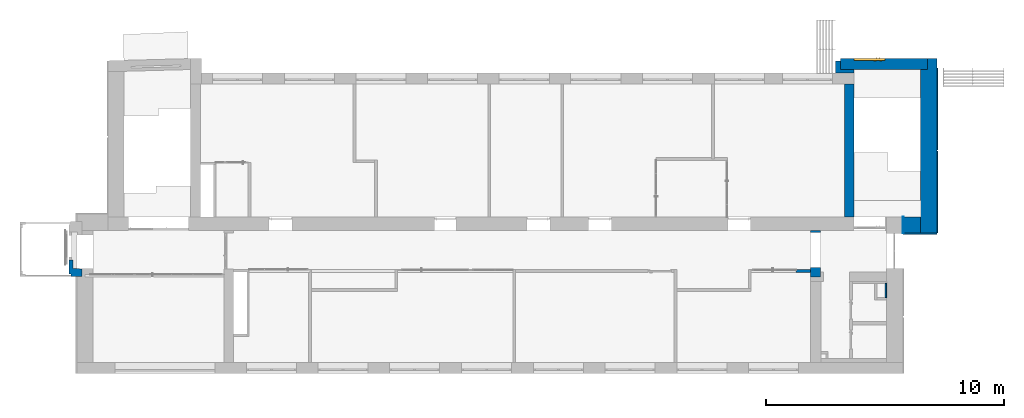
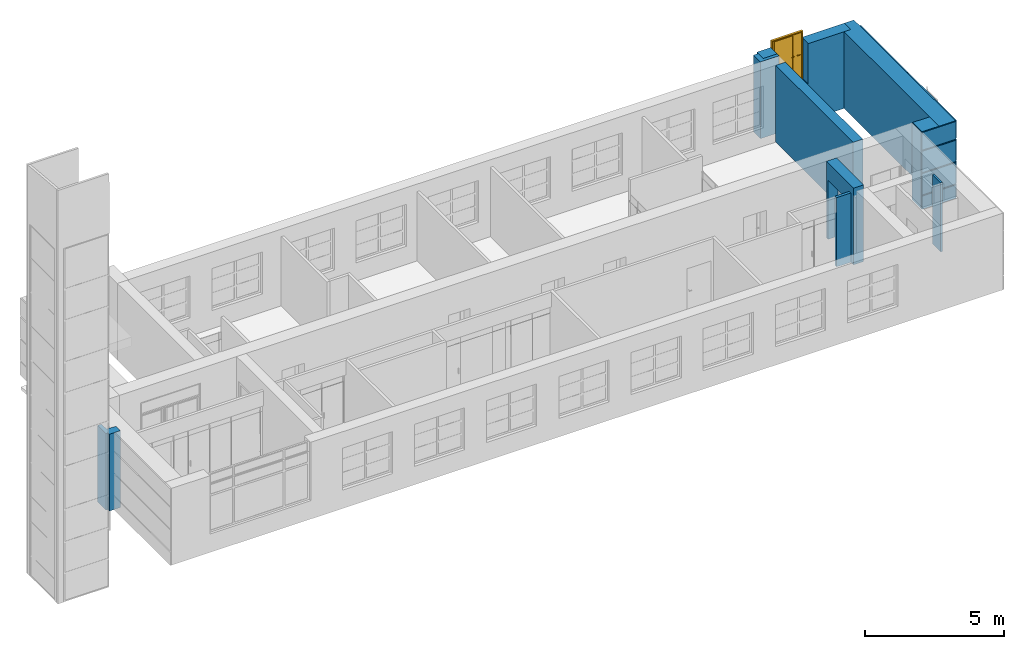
"""IFC2X3 building model written with IfcOpenShell, lengths in millimetres."""

from ifc_helpers import new_model, entity, si_unit, converted_unit, derived_unit, direction, frame, frame_2d, origin, origin_2d_with_axis, place, context, subcontext, project, spatial, polyline, rectangle, extrude, clip, bounded_halfspace, face_set, faceted_brep, surface_model, source, transform, mapped, material, material_list, layer, layer_set, layer_usage, type_object, type_shapes, element, fill, save


model = new_model("IFC2X3")

# Units and contexts
model_context = context("Model", 3, precision=0.01, world=origin(), true_north=direction((6.12303176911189e-17, 1.0)))
body_context = subcontext(model_context, "Body", "Model", "MODEL_VIEW")
ifc_project = project(units=[si_unit("LENGTHUNIT", "METRE", prefix="MILLI"), si_unit("AREAUNIT", "SQUARE_METRE"), si_unit("VOLUMEUNIT", "CUBIC_METRE"), converted_unit("PLANEANGLEUNIT", "DEGREE", entity("IfcRatioMeasure", 0.0174532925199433), si_unit("PLANEANGLEUNIT", "RADIAN"), dimensions=[0, 0, 0, 0, 0, 0, 0]), si_unit("MASSUNIT", "GRAM", prefix="KILO"), derived_unit("MASSDENSITYUNIT", [(si_unit("MASSUNIT", "GRAM", prefix="KILO"), 1), (si_unit("LENGTHUNIT", "METRE"), -3)]), si_unit("TIMEUNIT", "SECOND"), si_unit("FREQUENCYUNIT", "HERTZ"), si_unit("THERMODYNAMICTEMPERATUREUNIT", "DEGREE_CELSIUS"), derived_unit("THERMALTRANSMITTANCEUNIT", [(si_unit("MASSUNIT", "GRAM", prefix="KILO"), 1), (si_unit("THERMODYNAMICTEMPERATUREUNIT", "KELVIN"), -1), (si_unit("TIMEUNIT", "SECOND"), -3)]), derived_unit("VOLUMETRICFLOWRATEUNIT", [(si_unit("LENGTHUNIT", "METRE"), 3), (si_unit("TIMEUNIT", "SECOND"), -1)]), si_unit("ELECTRICCURRENTUNIT", "AMPERE"), si_unit("ELECTRICVOLTAGEUNIT", "VOLT"), si_unit("POWERUNIT", "WATT"), si_unit("FORCEUNIT", "NEWTON", prefix="KILO"), si_unit("ILLUMINANCEUNIT", "LUX"), si_unit("LUMINOUSFLUXUNIT", "LUMEN"), si_unit("LUMINOUSINTENSITYUNIT", "CANDELA"), derived_unit("USERDEFINED", [(si_unit("MASSUNIT", "GRAM", prefix="KILO"), -1), (si_unit("LENGTHUNIT", "METRE"), -2), (si_unit("TIMEUNIT", "SECOND"), 3), (si_unit("LUMINOUSFLUXUNIT", "LUMEN"), 1)]), derived_unit("LINEARVELOCITYUNIT", [(si_unit("LENGTHUNIT", "METRE"), 1), (si_unit("TIMEUNIT", "SECOND"), -1)]), si_unit("PRESSUREUNIT", "PASCAL"), derived_unit("USERDEFINED", [(si_unit("LENGTHUNIT", "METRE"), -2), (si_unit("MASSUNIT", "GRAM", prefix="KILO"), 1), (si_unit("TIMEUNIT", "SECOND"), -2)])], contexts=[model_context])

# Site, building, storey
site_placement = place(None, frame((-151.875543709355, 2715.0, 0.0)))
site = spatial("IfcSite", under=ifc_project, at=site_placement, Name="Surface", CompositionType="ELEMENT")
building_placement = place(site_placement, origin())
building = spatial("IfcBuilding", under=site, at=building_placement, CompositionType="ELEMENT")
storey_1_placement = place(building_placement, frame((0.0, 0.0, 3350.0)))
storey_1 = spatial("IfcBuildingStorey", under=building, at=storey_1_placement, Name="2 korrus", CompositionType="ELEMENT", Elevation=3350.00000000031)

# Wall
ifc_material_1 = material(Name="Paint - Sand Beige")
wall_type_1 = type_object("IfcWallType", Name="SEIN - 006", PredefinedType="NOTDEFINED", material=ifc_material_1)
wall_1_placement = place(storey_1_placement, frame((-541.883383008, 4071.05734432, 0.0), z_axis=(0.0, 0.0, 1.0), x_axis=(0.0, 1.0, 0.0)))
element("IfcWall", 1, at=wall_1_placement, inside=storey_1, type_object=wall_type_1, material=ifc_material_1, Name="SEIN - 006 48900:SEIN - 006 48900", ObjectType="SEIN - 006 48900:SEIN - 006 48900", context=body_context, shape_type="SurfaceModel", body=[
    surface_model("IfcFaceBasedSurfaceModel", [(99.9999990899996, -82.139787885, 3380.43203354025), (99.9999990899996, 0.0, 3380.43203354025), (100.00182932, 0.0, 0.0), (100.00182932, -82.139787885, 0.0), (99.9999990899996, -82.139787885, 3380.43203354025), (0.0, -82.139787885, 3380.43203354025), (0.0, -541.75892850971, 3380.43203354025), (318.92299153, -541.75892850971, 3380.43203354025), (341.8398406, -162.013561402, 3380.43203354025), (700.32644567, -162.013561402, 3380.43203354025), (700.32644567, 0.0, 3380.43203354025), (99.9999990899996, 0.0, 3380.43203354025), (99.9999990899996, 0.0, 3380.43203354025), (700.32644567, 0.0, 3380.43203354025), (700.32828135, 0.0, 0.0), (100.00182932, 0.0, 0.0), (0.00182932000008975, -82.139787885, 0.0), (0.00182932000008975, -541.758928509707, 0.0), (318.92299153, -541.758928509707, 0.0), (341.84167301, -162.013561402, 0.0), (700.32828135, -162.013561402, 0.0), (700.32828135, 0.0, 0.0), (100.00182932, 0.0, 0.0), (100.00182932, -82.139787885, 0.0), (0.0, -82.139787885, 3380.43203354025), (99.9999990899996, -82.139787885, 3380.43203354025), (100.00182932, -82.139787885, 0.0), (0.00182932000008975, -82.139787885, 0.0), (0.00182932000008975, -82.139787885, 0.0), (0.00182932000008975, -541.758928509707, 0.0), (0.0, -541.75892850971, 3380.43203354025), (0.0, -82.139787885, 3380.43203354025), (0.0, -541.75892850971, 3380.43203354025), (0.00182932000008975, -541.758928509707, 0.0), (318.92299153, -541.758928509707, 0.0), (318.92299153, -541.75892850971, 3380.43203354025), (341.841216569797, -162.013533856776, 0.0), (341.839384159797, -162.013533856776, 3380.43203354), (318.922535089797, -541.758900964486, 3380.43203354), (318.924360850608, -541.759011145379, 0.0), (341.8398406, -162.013561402, 3380.43203354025), (341.84167301, -162.013561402, 0.0), (700.32828135, -162.013561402, 0.0), (700.32644567, -162.013561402, 3380.43203354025), (700.326445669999, 0.0, 3380.43203354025), (700.326445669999, -162.013561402, 3380.43203354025), (700.328281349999, -162.013561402, 0.0), (700.328281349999, 0.0, 0.0)], [face_set([[[0, 1, 2, 3]]]), face_set([[[4, 5, 6, 7, 8, 9, 10, 11]]]), face_set([[[12, 13, 14, 15]]]), face_set([[[16, 17, 18, 19, 20, 21, 22, 23]]]), face_set([[[24, 25, 26, 27]]]), face_set([[[28, 29, 30, 31]]]), face_set([[[32, 33, 34, 35]]]), face_set([[[36, 37, 38, 39]]]), face_set([[[40, 41, 42, 43]]]), face_set([[[44, 45, 46, 47]]])]),
])

# Wall, opening
ifc_material_2 = material(Name="__Kips GN13_tava")
ifc_layer_1 = layer(ifc_material_2, 20.0)
ifc_material_3 = material(Name="Brick, Common")
ifc_layer_2 = layer(ifc_material_3, 380.0)
ifc_layer_3 = layer(ifc_material_2, 20.0)
ifc_layer_set_1 = layer_set([ifc_layer_1, ifc_layer_2, ifc_layer_3], Name="Basic Wall:SS-1_420mm")
ifc_layer_usage_1 = layer_usage(ifc_layer_set_1, "AXIS2", "NEGATIVE", 210.0)
wall_type_2 = type_object("IfcWallType", Name="Basic Wall:SS-1_420mm", PredefinedType="STANDARD", material=ifc_layer_set_1)
wall_2_placement = place(storey_1_placement, frame((30754.0171594, 6010.0, 0.0), z_axis=(0.0, 0.0, 1.0), x_axis=(0.0, -1.0, 0.0)))
wall_2 = element("IfcWallStandardCase", 2, at=wall_2_placement, inside=storey_1, type_object=wall_type_2, material=ifc_layer_usage_1, Name="SEIN - 002", ObjectType="Basic Wall:SS-1_420mm", context=body_context, shape_type="SweptSolid", body=[
    extrude(rectangle(XDim=1956.15710156, YDim=420.0, at=frame_2d((978.078550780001, 0.0), x_axis=(-1.0, 0.0))), origin(), (0.0, 0.0, 1.0), 3380.43203354),
])
opening_1_placement = place(wall_2_placement, origin())
element("IfcOpeningElement", 3, at=opening_1_placement, cuts=wall_2, Name="SEIN - 002", ObjectType="Opening", context=body_context, shape_type="SweptSolid", body=[
    extrude(rectangle(XDim=2600.0, YDim=1450.0, at=frame_2d((3.41060513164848e-13, 0.0), x_axis=(1.0, 0.0))), frame((827.489889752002, -210.0, 1300.0), z_axis=(0.0, 1.0, 0.0), x_axis=(0.0, 0.0, -1.0)), (0.0, 0.0, 1.0), 420.0),
])

ifc_layer_4 = layer(ifc_material_3, 750.0)
ifc_layer_5 = layer(ifc_material_2, 20.0)
ifc_layer_set_2 = layer_set([ifc_layer_4, ifc_layer_5], Name="Basic Wall:VS-1_770")
ifc_layer_usage_2 = layer_usage(ifc_layer_set_2, "AXIS2", "NEGATIVE", 385.0)
wall_type_3 = type_object("IfcWallType", Name="Basic Wall:VS-1_770", PredefinedType="STANDARD", material=ifc_layer_set_2)
wall_3_placement = place(storey_1_placement, frame((31987.6162682, 12610.0, 0.0), z_axis=(0.0, 0.0, 1.0), x_axis=(0.0, 1.0, 0.0)))
wall_3 = element("IfcWallStandardCase", 4, at=wall_3_placement, inside=storey_1, type_object=wall_type_3, material=ifc_layer_usage_2, Name="SEIN - 003", ObjectType="Basic Wall:VS-1_770", context=body_context, shape_type="Clipping", body=[
    clip(clip(extrude(rectangle(XDim=502.99999999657, YDim=769.999999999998, at=frame_2d((251.499999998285, 0.0), x_axis=(-1.0, 0.0))), origin(), (0.0, 0.0, 1.0), 3380.43203354), bounded_halfspace(frame((140.0, 185.499999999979, 0.0), z_axis=(-1.0, 0.0, 0.0), x_axis=(0.0, -1.0, 0.0)), True, frame((140.0, 185.499999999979, 0.0), z_axis=(-1.0, 0.0, 0.0), x_axis=(0.0, -1.0, 0.0)), polyline([(0.0, 0.0), (570.499999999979, 0.0), (570.499999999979, 1613.56344222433), (570.499999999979, 3380.43203354), (0.0, 3380.43203354), (0.0, 0.0)]))), bounded_halfspace(frame((140.0, 185.499999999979, 3380.43203354), z_axis=(0.0, 1.0, 0.0), x_axis=(-1.0, 0.0, 0.0)), True, frame((140.0, 185.499999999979, 3380.43203354), z_axis=(0.0, 1.0, 0.0), x_axis=(-1.0, 0.0, 0.0)), polyline([(0.0, 0.0), (-363.0, 0.0), (-363.0, -3380.43203354), (0.0, -3380.43203354), (0.0, 0.0)]))),
])
opening_2_placement = place(wall_3_placement, origin())
element("IfcOpeningElement", 5, at=opening_2_placement, cuts=wall_3, Name="SEIN - 003", ObjectType="Opening", context=body_context, shape_type="SweptSolid", body=[
    extrude(rectangle(XDim=2099.99999999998, YDim=459.999999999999, at=frame_2d((0.0, 0.0), x_axis=(0.0, 1.0))), frame((370.0, -1685.0, 2663.56344222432), z_axis=(0.0, 1.0, 0.0), x_axis=(1.0, 0.0, 0.0)), (0.0, 0.0, 1.0), 1300.0),
])

# Wall, openings
ifc_layer_6 = layer(ifc_material_3, 440.0)
ifc_layer_7 = layer(ifc_material_2, 20.0)
ifc_layer_set_3 = layer_set([ifc_layer_6, ifc_layer_7], Name="Basic Wall:VS-1")
ifc_layer_usage_3 = layer_usage(ifc_layer_set_3, "AXIS2", "POSITIVE", -230.0)
wall_type_4 = type_object("IfcWallType", Name="Basic Wall:VS-1", PredefinedType="STANDARD", material=ifc_layer_set_3)
wall_4_placement = place(storey_1_placement, frame((35446.6162682, 12980.0, 0.0), z_axis=(0.0, 0.0, 1.0), x_axis=(-1.0, 0.0, 0.0)))
wall_4 = element("IfcWallStandardCase", 6, at=wall_4_placement, inside=storey_1, type_object=wall_type_4, material=ifc_layer_usage_3, Name="SEIN - 003", ObjectType="Basic Wall:VS-1", context=body_context, shape_type="SweptSolid", body=[
    extrude(rectangle(XDim=3644.50000000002, YDim=459.999999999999, at=frame_2d((1822.25000000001, 0.0), x_axis=(-1.0, 0.0))), origin(), (0.0, 0.0, 1.0), 3380.43203354),
])
opening_3_placement = place(wall_4_placement, origin())
element("IfcOpeningElement", 7, at=opening_3_placement, cuts=wall_4, Name="SEIN - 003", ObjectType="Opening", context=body_context, shape_type="SweptSolid", body=[
    extrude(rectangle(XDim=1771.57872554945, YDim=1300.0, at=origin_2d_with_axis()), frame((2424.0, -230.0, 2499.35280499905), z_axis=(0.0, 1.0, 0.0), x_axis=(0.0, 0.0, -1.0)), (0.0, 0.0, 1.0), 459.999999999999),
])
opening_4_placement = place(wall_4_placement, frame((3074.0, 230.0, 1613.56344222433)))
opening_4 = element("IfcOpeningElement", 8, at=opening_4_placement, cuts=wall_4, Name="Kahepoolsed:SU-11:1", ObjectType="Opening", context=body_context, shape_type="SweptSolid", body=[
    extrude(rectangle(XDim=2099.99999999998, YDim=1300.0, at=frame_2d((1049.99999999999, 650.0), x_axis=(1.0, 0.0))), frame((0.0, 0.0, 0.0), z_axis=(0.0, -1.0, 0.0), x_axis=(0.0, 0.0, 1.0)), (0.0, 0.0, 1.0), 460.0),
])

# Storey
storey_2_placement = place(building_placement, frame((0.0, 0.0, 3875.0)))
storey_2 = spatial("IfcBuildingStorey", under=building, at=storey_2_placement, Name="uus 2 korrus", CompositionType="ELEMENT", Elevation=3875.00000000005)

# Door
ifc_material_4 = material(Name="_Alumiiniumprofiil - must")
ifc_material_5 = material(Name="__Uks_hele tamm")
ifc_material_6 = material(Name="EP Tavallinen lasi")
ifc_material_list_1 = material_list([ifc_material_4, ifc_material_5, ifc_material_6])
ifc_material_list_2 = material_list([ifc_material_4, ifc_material_5, ifc_material_6])
door_style = type_object("IfcDoorStyle", Name="SU-11", ConstructionType="NOTDEFINED", OperationType="FOLDING_TO_RIGHT", ParameterTakesPrecedence=False, Sizeable=False, material=ifc_material_list_2)
shared_shape = source(origin(), body_context, "Body", "Brep", [
    faceted_brep([(912.499999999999, 370.0, 1100.0), (817.499999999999, 370.0, 1100.0), (817.499999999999, 365.0, 1100.0), (937.499999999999, 365.0, 1100.0), (937.499999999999, 408.0, 1100.0), (912.499999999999, 408.0, 1100.0), (912.499999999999, 370.0, 1075.0), (912.499999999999, 408.0, 1075.0), (937.499999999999, 408.0, 1075.0), (937.499999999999, 365.0, 1075.0), (817.499999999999, 365.0, 1075.0), (817.499999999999, 370.0, 1075.0)], [[[0, 1, 2, 3, 4, 5]], [[6, 7, 8, 9, 10, 11]], [[5, 7, 6, 0]], [[4, 8, 7, 5]], [[3, 9, 8, 4]], [[2, 10, 9, 3]], [[1, 11, 10, 2]], [[0, 6, 11, 1]]]),
    faceted_brep([(900.0, 408.0, 1125.0), (950.0, 408.0, 1125.0), (950.0, 410.0, 1125.0), (900.0, 410.0, 1125.0), (900.0, 408.0, 1005.0), (900.0, 410.0, 1005.0), (950.0, 410.0, 1005.0), (950.0, 408.0, 1005.0)], [[[0, 1, 2, 3]], [[4, 5, 6, 7]], [[3, 5, 4, 0]], [[2, 6, 5, 3]], [[1, 7, 6, 2]], [[0, 4, 7, 1]]]),
    faceted_brep([(912.499999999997, 500.0, 1100.0), (912.499999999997, 462.0, 1100.0), (937.499999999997, 462.0, 1100.0), (937.499999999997, 505.0, 1100.0), (817.499999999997, 505.0, 1100.0), (817.499999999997, 500.0, 1100.0), (912.499999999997, 500.0, 1075.0), (817.499999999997, 500.0, 1075.0), (817.499999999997, 505.0, 1075.0), (937.499999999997, 505.0, 1075.0), (937.499999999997, 462.0, 1075.0), (912.499999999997, 462.0, 1075.0)], [[[0, 1, 2, 3, 4, 5]], [[6, 7, 8, 9, 10, 11]], [[1, 0, 6, 11]], [[2, 1, 11, 10]], [[3, 2, 10, 9]], [[4, 3, 9, 8]], [[5, 4, 8, 7]], [[0, 5, 7, 6]]]),
    faceted_brep([(900.0, 462.0, 1125.0), (900.0, 460.0, 1125.0), (950.0, 460.0, 1125.0), (950.0, 462.0, 1125.0), (900.0, 462.0, 1005.0), (950.0, 462.0, 1005.0), (950.0, 460.0, 1005.0), (900.0, 460.0, 1005.0)], [[[0, 1, 2, 3]], [[4, 5, 6, 7]], [[1, 0, 4, 7]], [[2, 1, 7, 6]], [[3, 2, 6, 5]], [[0, 3, 5, 4]]]),
    faceted_brep([(1087.5, 370.0, 1100.0), (1087.5, 408.0, 1100.0), (1062.5, 408.0, 1100.0), (1062.5, 365.0, 1100.0), (1182.5, 365.0, 1100.0), (1182.5, 370.0, 1100.0), (1087.5, 370.0, 1075.0), (1182.5, 370.0, 1075.0), (1182.5, 365.0, 1075.0), (1062.5, 365.0, 1075.0), (1062.5, 408.0, 1075.0), (1087.5, 408.0, 1075.0)], [[[0, 1, 2, 3, 4, 5]], [[6, 7, 8, 9, 10, 11]], [[1, 0, 6, 11]], [[2, 1, 11, 10]], [[3, 2, 10, 9]], [[4, 3, 9, 8]], [[5, 4, 8, 7]], [[0, 5, 7, 6]]]),
    faceted_brep([(1100.0, 408.0, 1125.0), (1100.0, 410.0, 1125.0), (1050.0, 410.0, 1125.0), (1050.0, 408.0, 1125.0), (1100.0, 408.0, 1005.0), (1050.0, 408.0, 1005.0), (1050.0, 410.0, 1005.0), (1100.0, 410.0, 1005.0)], [[[0, 1, 2, 3]], [[4, 5, 6, 7]], [[1, 0, 4, 7]], [[2, 1, 7, 6]], [[3, 2, 6, 5]], [[0, 3, 5, 4]]]),
    faceted_brep([(1087.5, 500.0, 1100.0), (1182.5, 500.0, 1100.0), (1182.5, 505.0, 1100.0), (1062.5, 505.0, 1100.0), (1062.5, 462.0, 1100.0), (1087.5, 462.0, 1100.0), (1087.5, 500.0, 1075.0), (1087.5, 462.0, 1075.0), (1062.5, 462.0, 1075.0), (1062.5, 505.0, 1075.0), (1182.5, 505.0, 1075.0), (1182.5, 500.0, 1075.0)], [[[0, 1, 2, 3, 4, 5]], [[6, 7, 8, 9, 10, 11]], [[5, 7, 6, 0]], [[4, 8, 7, 5]], [[3, 9, 8, 4]], [[2, 10, 9, 3]], [[1, 11, 10, 2]], [[0, 6, 11, 1]]]),
    faceted_brep([(1100.0, 462.0, 1125.0), (1050.0, 462.0, 1125.0), (1050.0, 460.0, 1125.0), (1100.0, 460.0, 1125.0), (1100.0, 462.0, 1005.0), (1100.0, 460.0, 1005.0), (1050.0, 460.0, 1005.0), (1050.0, 462.0, 1005.0)], [[[0, 1, 2, 3]], [[4, 5, 6, 7]], [[3, 5, 4, 0]], [[2, 6, 5, 3]], [[1, 7, 6, 2]], [[0, 4, 7, 1]]]),
    faceted_brep([(1260.0, 370.0, 30.0), (1260.0, 370.0, 0.0), (1260.0, 410.0, 0.0), (1260.0, 410.0, 20.0), (1260.0, 410.0, 30.0), (40.0, 370.0, 30.0), (40.0, 410.0, 30.0), (40.0, 410.0, 20.0), (40.0, 410.0, 0.0), (40.0, 370.0, 0.0), (25.0, 410.0, 0.0), (25.0, 460.0, 0.0), (1275.0, 460.0, 0.0), (1275.0, 410.0, 0.0), (1275.0, 460.0, 20.0), (1275.0, 410.0, 20.0), (25.0, 460.0, 20.0), (25.0, 410.0, 20.0)], [[[0, 1, 2, 3, 4]], [[5, 6, 7, 8, 9]], [[1, 0, 5, 9]], [[2, 1, 9, 8, 10, 11, 12, 13]], [[6, 4, 3, 7]], [[0, 4, 6, 5]], [[14, 15, 13, 12]], [[16, 11, 10, 17]], [[15, 14, 16, 17, 7, 3]], [[13, 15, 3, 2]], [[14, 12, 11, 16]], [[17, 10, 8, 7]]]),
    faceted_brep([(1300.0, 370.0, 0.0), (1260.0, 370.0, 0.0), (1260.0, 410.0, 0.0), (1275.0, 410.0, 0.0), (1275.0, 460.0, 0.0), (1300.0, 460.0, 0.0), (1300.0, 370.0, 2100.0), (0.0, 370.0, 2100.0), (0.0, 370.0, 0.0), (40.0, 370.0, 0.0), (40.0, 370.0, 2060.0), (1260.0, 370.0, 2060.0), (1260.0, 410.0, 2060.0), (40.0, 410.0, 2060.0), (40.0, 410.0, 0.0), (25.0, 410.0, 0.0), (25.0, 410.0, 2075.0), (1275.0, 410.0, 2075.0), (1275.0, 460.0, 2075.0), (25.0, 460.0, 2075.0), (25.0, 460.0, 0.0), (0.0, 460.0, 0.0), (0.0, 460.0, 2100.0), (1300.0, 460.0, 2100.0)], [[[0, 1, 2, 3, 4, 5]], [[1, 0, 6, 7, 8, 9, 10, 11]], [[2, 1, 11, 12]], [[3, 2, 12, 13, 14, 15, 16, 17]], [[4, 3, 17, 18]], [[5, 4, 18, 19, 20, 21, 22, 23]], [[0, 5, 23, 6]], [[8, 7, 22, 21]], [[9, 8, 21, 20, 15, 14]], [[10, 9, 14, 13]], [[16, 15, 20, 19]], [[11, 10, 13, 12]], [[17, 16, 19, 18]], [[7, 6, 23, 22]]]),
    faceted_brep([(1149.0, 460.0, 2000.0), (1149.0, 410.0, 2000.0), (1149.0, 410.0, 1990.0), (1149.0, 460.0, 1990.0), (1150.0, 410.0, 1990.0), (1150.0, 460.0, 1990.0), (1150.0, 410.0, 2000.0), (1150.0, 460.0, 2000.0), (1275.0, 410.0, 2075.0), (1000.0, 410.0, 2075.0), (1000.0, 410.0, 20.0), (1275.0, 410.0, 20.0), (1275.0, 460.0, 2075.0), (1275.0, 460.0, 20.0), (1000.0, 460.0, 20.0), (1000.0, 460.0, 2075.0)], [[[0, 1, 2, 3]], [[3, 2, 4, 5]], [[5, 4, 6, 7]], [[1, 0, 7, 6]], [[2, 1, 6, 4], [8, 9, 10, 11]], [[0, 3, 5, 7], [12, 13, 14, 15]], [[9, 8, 12, 15]], [[10, 9, 15, 14]], [[11, 10, 14, 13]], [[8, 11, 13, 12]]], outer=[[True], [True], [True], [True], [False, True], [False, True], [True], [True], [True], [True]]),
    faceted_brep([(125.0, 425.0, 350.0), (900.0, 425.0, 350.0), (900.0, 425.0, 2000.0), (125.0, 425.0, 2000.0), (125.0, 445.0, 350.0), (125.0, 445.0, 2000.0), (900.0, 445.0, 2000.0), (900.0, 445.0, 350.0)], [[[0, 1, 2, 3]], [[4, 5, 6, 7]], [[1, 0, 4, 7]], [[2, 1, 7, 6]], [[3, 2, 6, 5]], [[0, 3, 5, 4]]]),
    faceted_brep([(1000.0, 410.0, 2075.0), (25.0, 410.0, 2075.0), (25.0, 410.0, 20.0), (1000.0, 410.0, 20.0), (125.0, 410.0, 350.0), (125.0, 410.0, 2000.0), (900.0, 410.0, 2000.0), (900.0, 410.0, 350.0), (1000.0, 460.0, 2075.0), (1000.0, 460.0, 20.0), (25.0, 460.0, 20.0), (25.0, 460.0, 2075.0), (125.0, 460.0, 2000.0), (125.0, 460.0, 350.0), (900.0, 460.0, 350.0), (900.0, 460.0, 2000.0)], [[[0, 1, 2, 3], [4, 5, 6, 7]], [[8, 9, 10, 11], [12, 13, 14, 15]], [[1, 0, 8, 11]], [[2, 1, 11, 10]], [[3, 2, 10, 9]], [[0, 3, 9, 8]], [[12, 5, 4, 13]], [[13, 4, 7, 14]], [[14, 7, 6, 15]], [[5, 12, 15, 6]]]),
])
type_shapes(door_style, [shared_shape])
door_placement = place(opening_4_placement, frame((0.0, 0.0, 0.0), z_axis=(0.0, 0.0, 1.0), x_axis=(-1.0, 0.0, 0.0)))
door = element("IfcDoor", 9, at=door_placement, inside=storey_2, type_object=door_style, material=ifc_material_list_1, Name="Kahepoolsed:SU-11", ObjectType="SU-11", OverallHeight=2099.99999999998, OverallWidth=1300.0, context=body_context, shape_type="MappedRepresentation", body=[
    mapped(shared_shape, transform((0.0, 0.0, 0.0), scale=1.0)),
])

fill(opening_4, door)

# Walls
ifc_material_7 = material(Name="__Tuuletõkkeplaat")
ifc_layer_8 = layer(ifc_material_7, 9.0)
ifc_material_8 = material(Name="__Soojustus EPS")
ifc_layer_9 = layer(ifc_material_8, 200.0)
ifc_layer_10 = layer(ifc_material_3, 450.0)
ifc_layer_11 = layer(ifc_material_2, 20.0)
ifc_layer_set_4 = layer_set([ifc_layer_8, ifc_layer_9, ifc_layer_10, ifc_layer_11], Name="Basic Wall:VS-2_olemasolev sein fassaadikassettidega")
ifc_layer_usage_4 = layer_usage(ifc_layer_set_4, "AXIS2", "POSITIVE", -339.5)
wall_type_5 = type_object("IfcWallType", Name="Basic Wall:VS-2_olemasolev sein fassaadikassettidega", PredefinedType="STANDARD", material=ifc_layer_set_4)
wall_5_placement = place(storey_1_placement, frame((35506.1162682, 5891.0, 0.0), z_axis=(0.0, 0.0, 1.0), x_axis=(0.0, 1.0, 0.0)))
element("IfcWallStandardCase", 10, at=wall_5_placement, inside=storey_1, type_object=wall_type_5, material=ifc_layer_usage_4, Name="SEIN - 002", ObjectType="Basic Wall:VS-2_olemasolev sein fassaadikassettidega", context=body_context, shape_type="Clipping", body=[
    clip(clip(extrude(rectangle(XDim=7319.00000000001, YDim=679.000000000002, at=frame_2d((3659.5, 0.0), x_axis=(-1.0, 0.0))), origin(), (0.0, 0.0, 1.0), 3380.43203354), bounded_halfspace(frame((6859.0, 59.4999999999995, 3380.43203354), z_axis=(-1.0, 0.0, 0.0), x_axis=(0.0, -1.0, 0.0)), True, frame((6859.0, 59.4999999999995, 3380.43203354), z_axis=(-1.0, 0.0, 0.0), x_axis=(0.0, -1.0, 0.0)), polyline([(0.0, 0.0), (-280.0, 0.0), (-280.0, -3380.43203354), (0.0, -3380.43203354), (0.0, 0.0)]))), bounded_halfspace(frame((6859.0, 59.4999999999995, 0.0), z_axis=(0.0, -1.0, 0.0), x_axis=(-1.0, 0.0, 0.0)), True, frame((6859.0, 59.4999999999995, 0.0), z_axis=(0.0, -1.0, 0.0), x_axis=(-1.0, 0.0, 0.0)), polyline([(0.0, 0.0), (-460.0, 0.0), (-460.0, -3380.43203354), (0.0, -3380.43203354), (0.0, 0.0)]))),
])
ifc_layer_usage_5 = layer_usage(ifc_layer_set_4, "AXIS2", "POSITIVE", -339.5)
wall_6_placement = place(storey_1_placement, frame((34420.6162682, 6230.5, 0.0)))
element("IfcWallStandardCase", 11, at=wall_6_placement, inside=storey_1, type_object=wall_type_5, material=ifc_layer_usage_5, Name="SEIN - 003", ObjectType="Basic Wall:VS-2_olemasolev sein fassaadikassettidega", context=body_context, shape_type="SweptSolid", body=[
    extrude(rectangle(XDim=40.4999999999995, YDim=678.999999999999, at=frame_2d((20.2499999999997, -4.54747350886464e-13), x_axis=(-1.0, 0.0))), origin(), (0.0, 0.0, 1.0), 3380.43),
])
ifc_layer_usage_6 = layer_usage(ifc_layer_set_4, "AXIS2", "POSITIVE", -339.5)
wall_7_placement = place(storey_1_placement, frame((34461.1162682, 6230.5, 0.0)))
element("IfcWallStandardCase", 12, at=wall_7_placement, inside=storey_1, type_object=wall_type_5, material=ifc_layer_usage_6, Name="Basic Wall:VS-2_olemasolev sein fassaadikassettidega", ObjectType="Basic Wall:VS-2_olemasolev sein fassaadikassettidega", context=body_context, shape_type="SweptSolid", body=[
    extrude(rectangle(XDim=705.500000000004, YDim=678.999999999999, at=frame_2d((352.750000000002, 4.2632564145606e-13), x_axis=(-1.0, 0.0))), origin(), (0.0, 0.0, 1.0), 3380.43),
])

# Wall, opening
ifc_material_9 = material(Name="__Hall krohv")
ifc_layer_12 = layer(ifc_material_9, 10.0)
ifc_material_10 = material(Name="Tellis")
ifc_layer_13 = layer(ifc_material_10, 380.0)
ifc_layer_14 = layer(ifc_material_9, 10.0)
ifc_layer_set_5 = layer_set([ifc_layer_12, ifc_layer_13, ifc_layer_14], Name="Basic Wall:SS-01_ol.olev tellissein400")
ifc_layer_usage_7 = layer_usage(ifc_layer_set_5, "AXIS2", "NEGATIVE", 200.0)
wall_type_6 = type_object("IfcWallType", Name="Basic Wall:SS-01_ol.olev tellissein400", PredefinedType="STANDARD", material=ifc_layer_set_5)
wall_8_placement = place(storey_1_placement, frame((32172.6162682, 6560.0, 0.0), z_axis=(0.0, 0.0, 1.0), x_axis=(0.0, 1.0, 0.0)))
wall_8 = element("IfcWallStandardCase", 13, at=wall_8_placement, inside=storey_1, type_object=wall_type_6, material=ifc_layer_usage_7, Name="SEIN - 003", ObjectType="Basic Wall:SS-01_ol.olev tellissein400", context=body_context, shape_type="SweptSolid", body=[
    extrude(rectangle(XDim=5590.0, YDim=400.000000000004, at=frame_2d((2795.0, 0.0), x_axis=(-1.0, 0.0))), origin(), (0.0, 0.0, 1.0), 3380.43203354),
])
opening_5_placement = place(wall_8_placement, origin())
element("IfcOpeningElement", 14, at=opening_5_placement, cuts=wall_8, Name="SEIN - 003", ObjectType="Opening", context=body_context, shape_type="SweptSolid", body=[
    extrude(rectangle(XDim=2099.99999999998, YDim=900.0, at=frame_2d((-5.40012479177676e-13, -1.02318153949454e-12), x_axis=(0.0, 1.0))), frame((1000.15019496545, -1724.0, 4430.4300000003), z_axis=(0.0, 1.0, 0.0), x_axis=(-1.0, 0.0, 0.0)), (0.0, 0.0, 1.0), 3048.0),
])

# Wall
ifc_layer_15 = layer(ifc_material_2, 12.5)
ifc_layer_16 = layer(ifc_material_2, 12.5)
ifc_layer_17 = layer(ifc_material_8, 66.0)
ifc_layer_18 = layer(ifc_material_2, 12.5)
ifc_layer_19 = layer(ifc_material_2, 12.5)
ifc_layer_set_6 = layer_set([ifc_layer_15, ifc_layer_16, ifc_layer_17, ifc_layer_18, ifc_layer_19], Name="Basic Wall:SS-3_Kipssein tava ruumide vahel")
ifc_layer_usage_8 = layer_usage(ifc_layer_set_6, "AXIS2", "NEGATIVE", 58.0)
wall_type_7 = type_object("IfcWallType", Name="Basic Wall:SS-3_Kipssein tava ruumide vahel", PredefinedType="STANDARD", material=ifc_layer_set_6)
wall_9_placement = place(storey_1_placement, frame((30544.0171594, 4307.04493399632, 0.0), z_axis=(0.0, 0.0, 1.0), x_axis=(-1.0, 0.0, 0.0)))
element("IfcWallStandardCase", 15, at=wall_9_placement, inside=storey_1, type_object=wall_type_7, material=ifc_layer_usage_8, Name="Basic Wall:SS-3_Kipssein tava ruumide vahel", ObjectType="Basic Wall:SS-3_Kipssein tava ruumide vahel", context=body_context, shape_type="SweptSolid", body=[
    extrude(rectangle(XDim=599.999999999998, YDim=116.0, at=frame_2d((299.999999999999, 1.74082970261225e-13), x_axis=(-1.0, 0.0))), origin(), (0.0, 0.0, 1.0), 3050.0),
])

# Wall, opening
ifc_layer_20 = layer(ifc_material_10, 60.0)
ifc_layer_21 = layer(ifc_material_9, 10.0)
ifc_layer_set_7 = layer_set([ifc_layer_20, ifc_layer_21], Name="Basic Wall:SS-01_ol.olev tellissein70")
ifc_layer_usage_9 = layer_usage(ifc_layer_set_7, "AXIS2", "NEGATIVE", 35.0)
wall_type_8 = type_object("IfcWallType", Name="Basic Wall:SS-01_ol.olev tellissein70", PredefinedType="STANDARD", material=ifc_layer_set_7)
wall_10_placement = place(storey_1_placement, frame((33706.6162682, 3783.84289844, 0.0), z_axis=(0.0, 0.0, 1.0), x_axis=(0.0, -1.0, 0.0)))
wall_10 = element("IfcWallStandardCase", 16, at=wall_10_placement, inside=storey_1, type_object=wall_type_8, material=ifc_layer_usage_9, Name="SEIN - 003", ObjectType="Basic Wall:SS-01_ol.olev tellissein70", context=body_context, shape_type="SweptSolid", body=[
    extrude(rectangle(XDim=600.067670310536, YDim=70.0000000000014, at=frame_2d((300.033835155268, 0.0), x_axis=(-1.0, 0.0))), origin(), (0.0, 0.0, 1.0), 3048.62309836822),
])
opening_6_placement = place(wall_10_placement, origin())
element("IfcOpeningElement", 17, at=opening_6_placement, cuts=wall_10, Name="SEIN - 003", ObjectType="Opening", context=body_context, shape_type="SweptSolid", body=[
    extrude(rectangle(XDim=2450.0, YDim=1479.65663216, at=frame_2d((3.41060513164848e-13, 5.11590769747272e-13), x_axis=(1.0, 0.0))), frame((-1358.38638809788, -474.0, 1225.0), z_axis=(0.0, 1.0, 0.0), x_axis=(0.0, 0.0, -1.0)), (0.0, 0.0, 1.0), 1696.8),
])

# Walls
ifc_material_11 = material(Name="Steel/Aluminium")
wall_type_9 = type_object("IfcWallType", Name="fassaad6.2:fassaad6.2", PredefinedType="NOTDEFINED", material=ifc_material_11)
wall_11_placement = place(storey_1_placement, frame((34420.6162682, 5841.0, 0.0)))
element("IfcWall", 18, at=wall_11_placement, inside=storey_1, type_object=wall_type_9, material=ifc_material_11, Name="fassaad6.2:fassaad6.2", ObjectType="fassaad6.2:fassaad6.2", context=body_context, shape_type="SweptSolid", body=[
    extrude(rectangle(XDim=49.9999999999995, YDim=1424.99999999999, at=frame_2d((0.0, -2.1600499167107e-12), x_axis=(1.0, 0.0))), frame((712.499999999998, 25.0, 0.0), z_axis=(0.0, 0.0, 1.0), x_axis=(0.0, 1.0, 0.0)), (0.0, 0.0, 1.0), 585.115269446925),
    extrude(rectangle(XDim=49.9999999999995, YDim=1425.0, at=frame_2d((0.0, -2.1600499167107e-12), x_axis=(1.0, 0.0))), frame((712.499999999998, 25.0, 635.115269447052), z_axis=(0.0, 0.0, 1.0), x_axis=(0.0, 1.0, 0.0)), (0.0, 0.0, 1.0), 934.999999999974),
    extrude(rectangle(XDim=49.9999999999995, YDim=1425.0, at=frame_2d((5.41788836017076e-13, -4.32009983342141e-12), x_axis=(1.0, 0.0))), frame((712.499999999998, 25.0, 2605.11526944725), z_axis=(0.0, 0.0, 1.0), x_axis=(0.0, 1.0, 0.0)), (0.0, 0.0, 1.0), 774.884730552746),
    extrude(rectangle(XDim=49.9999999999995, YDim=1425.0, at=frame_2d((0.0, -2.1600499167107e-12), x_axis=(1.0, 0.0))), frame((712.499999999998, 25.0, 1620.11526944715), z_axis=(0.0, 0.0, 1.0), x_axis=(0.0, 1.0, 0.0)), (0.0, 0.0, 1.0), 934.999999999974),
])
wall_type_10 = type_object("IfcWallType", Name="fassaad5.2:fassaad5.2", PredefinedType="NOTDEFINED", material=ifc_material_11)
wall_12_placement = place(storey_1_placement, frame((35845.6162682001, 5891.0, 0.00203353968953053), z_axis=(0.0, 0.0, 1.0), x_axis=(0.0, 1.0, 0.0)))
element("IfcWall", 19, at=wall_12_placement, inside=storey_1, type_object=wall_type_10, material=ifc_material_11, Name="fassaad5.2:fassaad5.2", ObjectType="fassaad5.2:fassaad5.2", context=body_context, shape_type="SweptSolid", body=[
    extrude(rectangle(XDim=3435.00000000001, YDim=50.0000000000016, at=origin_2d_with_axis()), frame((5202.5, -25.0, 0.0)), (0.0, 0.0, 1.0), 584.99999999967),
    extrude(rectangle(XDim=3434.99999999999, YDim=50.0000000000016, at=frame_2d((-5.6843418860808e-13, -2.16715534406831e-12), x_axis=(1.0, 0.0))), frame((1717.5, -25.0, 0.0)), (0.0, 0.0, 1.0), 584.99999999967),
    extrude(rectangle(XDim=3434.99999999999, YDim=50.0000000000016, at=frame_2d((0.0, 2.16715534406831e-12), x_axis=(1.0, 0.0))), frame((1717.5, -25.0, 635.0)), (0.0, 0.0, 1.0), 934.999999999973),
    extrude(rectangle(XDim=3435.00000000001, YDim=50.0000000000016, at=frame_2d((4.54747350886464e-13, 0.0), x_axis=(1.0, 0.0))), frame((5202.5, -25.0, 635.0)), (0.0, 0.0, 1.0), 934.999999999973),
    extrude(rectangle(XDim=3435.00000000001, YDim=50.0000000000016, at=origin_2d_with_axis()), frame((5202.5, -25.0, 2605.0)), (0.0, 0.0, 1.0), 775.0),
    extrude(rectangle(XDim=3435.0, YDim=50.0000000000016, at=frame_2d((-1.02318153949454e-12, -4.33253433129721e-12), x_axis=(1.0, 0.0))), frame((1717.5, -25.0, 1620.0)), (0.0, 0.0, 1.0), 934.999999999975),
    extrude(rectangle(XDim=3435.00000000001, YDim=50.0000000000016, at=frame_2d((1.02318153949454e-12, 0.0), x_axis=(1.0, 0.0))), frame((5202.5, -25.0, 1620.0)), (0.0, 0.0, 1.0), 934.999999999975),
    extrude(rectangle(XDim=3435.0, YDim=50.0000000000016, at=frame_2d((5.6843418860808e-13, 0.0), x_axis=(1.0, 0.0))), frame((1717.5, -25.0, 2605.0)), (0.0, 0.0, 1.0), 775.0),
])

save(model, "model.ifc")
